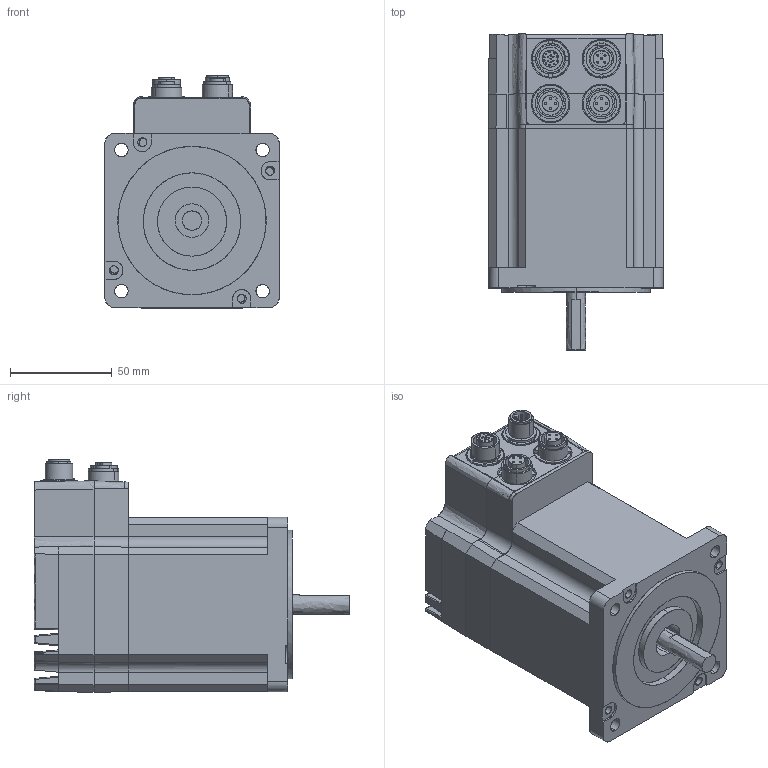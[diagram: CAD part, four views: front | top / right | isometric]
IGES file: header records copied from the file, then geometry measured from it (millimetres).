
Start section: Comment
Global section: file name: MIS341C12xxxx85.igs; native system:  By UGS Corp.; preprocessor: XPlus GENERIC/IGES 3.0; author: Author; organization: Title; date: 20160502.172428; units: millimetre
Bounding box: 86.41 x 155.5 x 114.53 mm (x, y, z)
Surface area: 103974.6 mm2 (no closed solid volume)
Topology: 0 solids, 0 shells, 1155 faces, 5648 edges, 5642 vertices
Faces by surface type: bspline 1155
